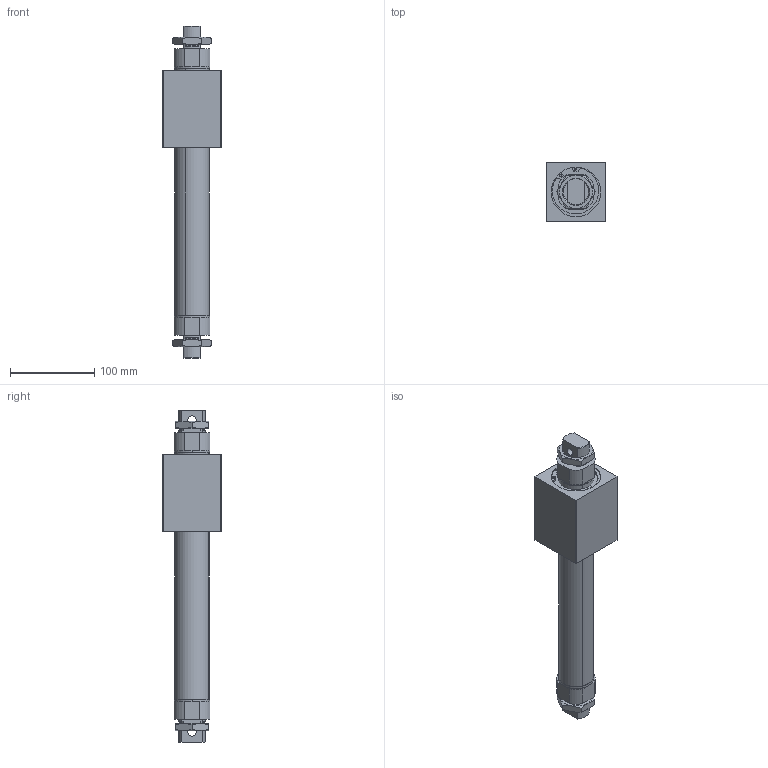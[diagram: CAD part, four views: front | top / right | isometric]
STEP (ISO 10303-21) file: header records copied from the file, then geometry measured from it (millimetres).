
FILE_DESCRIPTION (( 'STEP AP214' ), '1' );
FILE_NAME ('WMS-040-0200 (3D).STEP', '2019-09-13T13:08:01', ( '' ), ( '' ), 'SwSTEP 2.0', 'SolidWorks 2016', '' );
FILE_SCHEMA (( 'AUTOMOTIVE_DESIGN' ));
Length unit declared in the file: millimetre
Products named in the file (5): Group3^WMS-040-0200 (3D); Group4^WMS-040-0200 (3D); WMS-040-0200 (3D); Group1^WMS-040-0200 (3D); Group2^WMS-040-0200 (3D)
Assembly tree (4 placements, depth 2):
  WMS-040-0200 (3D)
    Group1^WMS-040-0200 (3D)
    Group2^WMS-040-0200 (3D)
    Group3^WMS-040-0200 (3D)
    Group4^WMS-040-0200 (3D)
Bounding box: 70 x 70 x 395 mm (x, y, z)
Volume: 573380.3 mm3; surface area: 167608.2 mm2
Topology: 9 solids, 9 shells, 443 faces, 1130 edges, 744 vertices
Faces by surface type: plane 230, cylinder 108, bspline 79, cone 26
Entity records: 19261 total; most frequent: CARTESIAN_POINT 7607, ORIENTED_EDGE 2260, DIRECTION 1894, EDGE_CURVE 1130, VERTEX_POINT 744, LINE 696, VECTOR 696, AXIS2_PLACEMENT_3D 599
